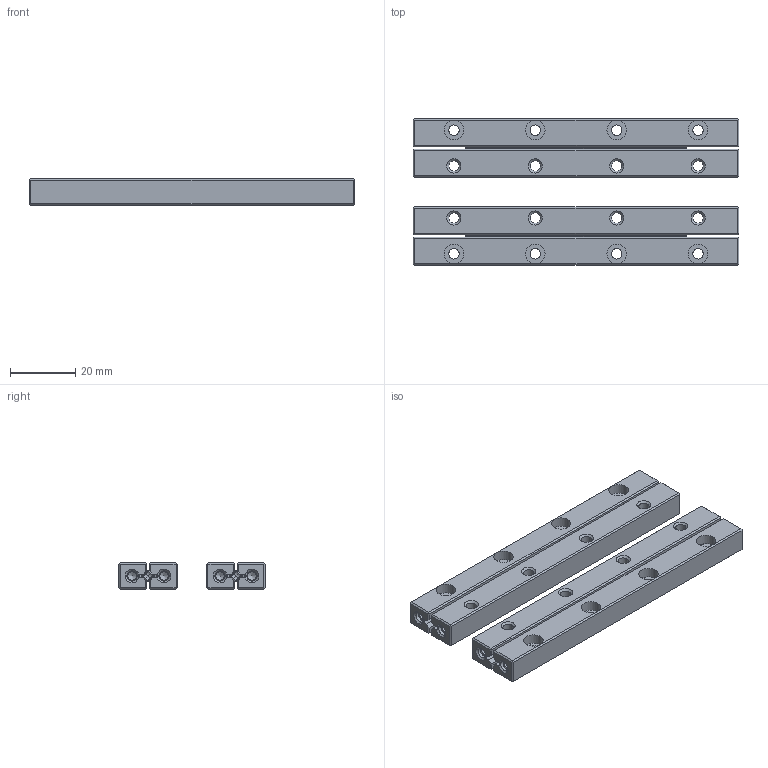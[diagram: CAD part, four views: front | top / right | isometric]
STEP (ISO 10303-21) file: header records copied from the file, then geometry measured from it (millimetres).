
FILE_DESCRIPTION(/* description */ (''),/* implementation_level */ '2;1');
FILE_NAME(/* name */ 'Set RSDE-3100x18KRE-ACC.stp',/* time_stamp */ '2018-12-19T12:57:22+01:00',/* author */ (''),/* organization */ (''),/* preprocessor_version */ 'ST-DEVELOPER v16.7',/* originating_system */ 'SIEMENS PLM Software NX 12.0',/* authorisation */ '');
FILE_SCHEMA (('AUTOMOTIVE_DESIGN { 1 0 10303 214 3 1 1 1 }'));
Products named in the file (1): rhn11EC67B6z1rv
Bounding box: 100 x 45 x 8 mm (x, y, z)
Volume: 24095.7 mm3; surface area: 21225.1 mm2
Topology: 52 solids, 52 shells, 2772 faces, 7918 edges, 5226 vertices
Faces by surface type: plane 1424, cylinder 852, torus 376, extrusion 72, cone 48
Full cylindrical faces by diameter (mm): 0.45 x160, 1 x8, 2 x36, 2.6 x8, 3 x36, 3.2 x24, 6 x16
Entity records: 92936 total; most frequent: CARTESIAN_POINT 20921, DIRECTION 14858, ORIENTED_EDGE 14584, EDGE_CURVE 7292, AXIS2_PLACEMENT_3D 5257, VERTEX_POINT 5012, VECTOR 4344, LINE 4272
